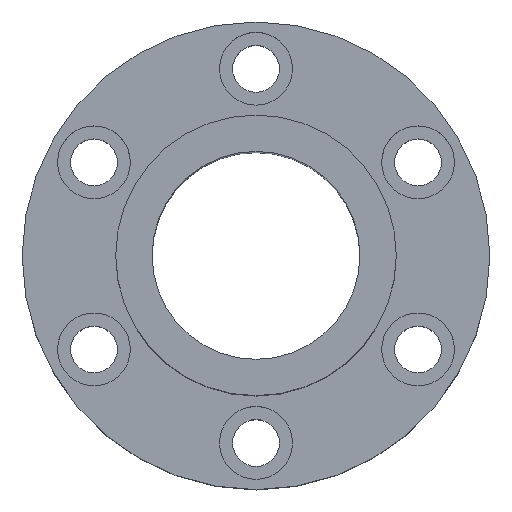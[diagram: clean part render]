
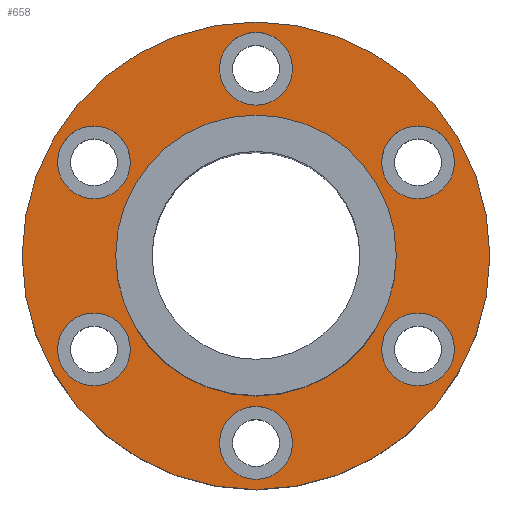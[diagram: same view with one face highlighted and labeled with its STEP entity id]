
A CAD part, top view. The second image highlights one B-rep face of the part: STEP entity #658.
In plain terms, the highlighted planar face has unit normal (0, 0, 1).
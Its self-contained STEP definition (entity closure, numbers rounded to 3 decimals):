
#1=CARTESIAN_POINT('',(0.,0.,17.5));
#2=DIRECTION('',(0.,0.,1.));
#3=DIRECTION('',(1.,0.,0.));
#4=AXIS2_PLACEMENT_3D('',#1,#2,#3);
#6=CARTESIAN_POINT('',(0.,0.,17.5));
#7=DIRECTION('',(0.,0.,1.));
#8=DIRECTION('',(-1.,0.,0.));
#9=AXIS2_PLACEMENT_3D('',#6,#7,#8);
#11=CARTESIAN_POINT('',(31.177,-18.,17.5));
#12=DIRECTION('',(0.,0.,-1.));
#13=DIRECTION('',(-0.5,-0.866,0.));
#14=AXIS2_PLACEMENT_3D('',#11,#12,#13);
#16=CARTESIAN_POINT('',(31.177,-18.,17.5));
#17=DIRECTION('',(0.,0.,-1.));
#18=DIRECTION('',(0.5,0.866,0.));
#19=AXIS2_PLACEMENT_3D('',#16,#17,#18);
#21=CARTESIAN_POINT('',(-31.177,-18.,17.5));
#22=DIRECTION('',(0.,0.,-1.));
#23=DIRECTION('',(-0.5,0.866,0.));
#24=AXIS2_PLACEMENT_3D('',#21,#22,#23);
#26=CARTESIAN_POINT('',(-31.177,-18.,17.5));
#27=DIRECTION('',(0.,0.,-1.));
#28=DIRECTION('',(0.5,-0.866,0.));
#29=AXIS2_PLACEMENT_3D('',#26,#27,#28);
#31=CARTESIAN_POINT('',(0.,36.,17.5));
#32=DIRECTION('',(0.,0.,-1.));
#33=DIRECTION('',(1.,0.,0.));
#34=AXIS2_PLACEMENT_3D('',#31,#32,#33);
#36=CARTESIAN_POINT('',(0.,36.,17.5));
#37=DIRECTION('',(0.,0.,-1.));
#38=DIRECTION('',(-1.,0.,0.));
#39=AXIS2_PLACEMENT_3D('',#36,#37,#38);
#41=CARTESIAN_POINT('',(0.,0.,17.5));
#42=DIRECTION('',(0.,0.,-1.));
#43=DIRECTION('',(1.,0.,0.));
#44=AXIS2_PLACEMENT_3D('',#41,#42,#43);
#46=CARTESIAN_POINT('',(0.,0.,17.5));
#47=DIRECTION('',(0.,0.,-1.));
#48=DIRECTION('',(-1.,0.,0.));
#49=AXIS2_PLACEMENT_3D('',#46,#47,#48);
#51=CARTESIAN_POINT('',(-31.177,18.,17.5));
#52=DIRECTION('',(0.,0.,-1.));
#53=DIRECTION('',(0.5,0.866,0.));
#54=AXIS2_PLACEMENT_3D('',#51,#52,#53);
#56=CARTESIAN_POINT('',(-31.177,18.,17.5));
#57=DIRECTION('',(0.,0.,-1.));
#58=DIRECTION('',(-0.5,-0.866,0.));
#59=AXIS2_PLACEMENT_3D('',#56,#57,#58);
#61=CARTESIAN_POINT('',(0.,-36.,17.5));
#62=DIRECTION('',(0.,0.,-1.));
#63=DIRECTION('',(-1.,0.,0.));
#64=AXIS2_PLACEMENT_3D('',#61,#62,#63);
#66=CARTESIAN_POINT('',(0.,-36.,17.5));
#67=DIRECTION('',(0.,0.,-1.));
#68=DIRECTION('',(1.,0.,0.));
#69=AXIS2_PLACEMENT_3D('',#66,#67,#68);
#71=CARTESIAN_POINT('',(31.177,18.,17.5));
#72=DIRECTION('',(0.,0.,-1.));
#73=DIRECTION('',(0.5,-0.866,0.));
#74=AXIS2_PLACEMENT_3D('',#71,#72,#73);
#76=CARTESIAN_POINT('',(31.177,18.,17.5));
#77=DIRECTION('',(0.,0.,-1.));
#78=DIRECTION('',(-0.5,0.866,0.));
#79=AXIS2_PLACEMENT_3D('',#76,#77,#78);
#533=CARTESIAN_POINT('',(-45.,0.,17.5));
#535=VERTEX_POINT('',#533);
#537=CARTESIAN_POINT('',(45.,0.,17.5));
#539=VERTEX_POINT('',#537);
#541=CARTESIAN_POINT('',(7.,36.,17.5));
#543=VERTEX_POINT('',#541);
#545=CARTESIAN_POINT('',(-7.,36.,17.5));
#547=VERTEX_POINT('',#545);
#549=CARTESIAN_POINT('',(-27.677,24.062,17.5));
#551=VERTEX_POINT('',#549);
#553=CARTESIAN_POINT('',(-34.677,11.938,17.5));
#555=VERTEX_POINT('',#553);
#557=CARTESIAN_POINT('',(-34.677,-11.938,17.5));
#559=VERTEX_POINT('',#557);
#561=CARTESIAN_POINT('',(-27.677,-24.062,17.5));
#563=VERTEX_POINT('',#561);
#565=CARTESIAN_POINT('',(-7.,-36.,17.5));
#567=VERTEX_POINT('',#565);
#569=CARTESIAN_POINT('',(7.,-36.,17.5));
#571=VERTEX_POINT('',#569);
#573=CARTESIAN_POINT('',(27.677,-24.062,17.5));
#575=VERTEX_POINT('',#573);
#577=CARTESIAN_POINT('',(34.677,-11.938,17.5));
#579=VERTEX_POINT('',#577);
#581=CARTESIAN_POINT('',(34.677,11.938,17.5));
#583=VERTEX_POINT('',#581);
#585=CARTESIAN_POINT('',(27.677,24.062,17.5));
#587=VERTEX_POINT('',#585);
#598=CARTESIAN_POINT('',(27.,0.,17.5));
#600=VERTEX_POINT('',#598);
#602=CARTESIAN_POINT('',(-27.,0.,17.5));
#604=VERTEX_POINT('',#602);
#605=CARTESIAN_POINT('',(0.,0.,17.5));
#606=DIRECTION('',(0.,0.,1.));
#607=DIRECTION('',(1.,0.,0.));
#608=AXIS2_PLACEMENT_3D('',#605,#606,#607);
#609=PLANE('',#608);
#611=ORIENTED_EDGE('',*,*,#610,.F.);
#613=ORIENTED_EDGE('',*,*,#612,.F.);
#614=EDGE_LOOP('',(#611,#613));
#615=FACE_OUTER_BOUND('',#614,.F.);
#617=ORIENTED_EDGE('',*,*,#616,.F.);
#619=ORIENTED_EDGE('',*,*,#618,.F.);
#620=EDGE_LOOP('',(#617,#619));
#621=FACE_BOUND('',#620,.F.);
#623=ORIENTED_EDGE('',*,*,#622,.F.);
#625=ORIENTED_EDGE('',*,*,#624,.F.);
#626=EDGE_LOOP('',(#623,#625));
#627=FACE_BOUND('',#626,.F.);
#629=ORIENTED_EDGE('',*,*,#628,.F.);
#631=ORIENTED_EDGE('',*,*,#630,.F.);
#632=EDGE_LOOP('',(#629,#631));
#633=FACE_BOUND('',#632,.F.);
#635=ORIENTED_EDGE('',*,*,#634,.F.);
#637=ORIENTED_EDGE('',*,*,#636,.F.);
#638=EDGE_LOOP('',(#635,#637));
#639=FACE_BOUND('',#638,.F.);
#641=ORIENTED_EDGE('',*,*,#640,.F.);
#643=ORIENTED_EDGE('',*,*,#642,.F.);
#644=EDGE_LOOP('',(#641,#643));
#645=FACE_BOUND('',#644,.F.);
#647=ORIENTED_EDGE('',*,*,#646,.F.);
#649=ORIENTED_EDGE('',*,*,#648,.F.);
#650=EDGE_LOOP('',(#647,#649));
#651=FACE_BOUND('',#650,.F.);
#653=ORIENTED_EDGE('',*,*,#652,.F.);
#655=ORIENTED_EDGE('',*,*,#654,.F.);
#656=EDGE_LOOP('',(#653,#655));
#657=FACE_BOUND('',#656,.F.);
#658=ADVANCED_FACE('',(#615,#621,#627,#633,#639,#645,#651,#657),#609,.T.);
#5=CIRCLE('',#4,45.);
#10=CIRCLE('',#9,45.);
#15=CIRCLE('',#14,7.);
#20=CIRCLE('',#19,7.);
#25=CIRCLE('',#24,7.);
#30=CIRCLE('',#29,7.);
#35=CIRCLE('',#34,7.);
#40=CIRCLE('',#39,7.);
#45=CIRCLE('',#44,27.);
#50=CIRCLE('',#49,27.);
#55=CIRCLE('',#54,7.);
#60=CIRCLE('',#59,7.);
#65=CIRCLE('',#64,7.);
#70=CIRCLE('',#69,7.);
#75=CIRCLE('',#74,7.);
#80=CIRCLE('',#79,7.);
#610=EDGE_CURVE('',#539,#535,#5,.T.);
#612=EDGE_CURVE('',#535,#539,#10,.T.);
#616=EDGE_CURVE('',#575,#579,#15,.T.);
#618=EDGE_CURVE('',#579,#575,#20,.T.);
#622=EDGE_CURVE('',#559,#563,#25,.T.);
#624=EDGE_CURVE('',#563,#559,#30,.T.);
#628=EDGE_CURVE('',#543,#547,#35,.T.);
#630=EDGE_CURVE('',#547,#543,#40,.T.);
#634=EDGE_CURVE('',#600,#604,#45,.T.);
#636=EDGE_CURVE('',#604,#600,#50,.T.);
#640=EDGE_CURVE('',#551,#555,#55,.T.);
#642=EDGE_CURVE('',#555,#551,#60,.T.);
#646=EDGE_CURVE('',#567,#571,#65,.T.);
#648=EDGE_CURVE('',#571,#567,#70,.T.);
#652=EDGE_CURVE('',#583,#587,#75,.T.);
#654=EDGE_CURVE('',#587,#583,#80,.T.);
